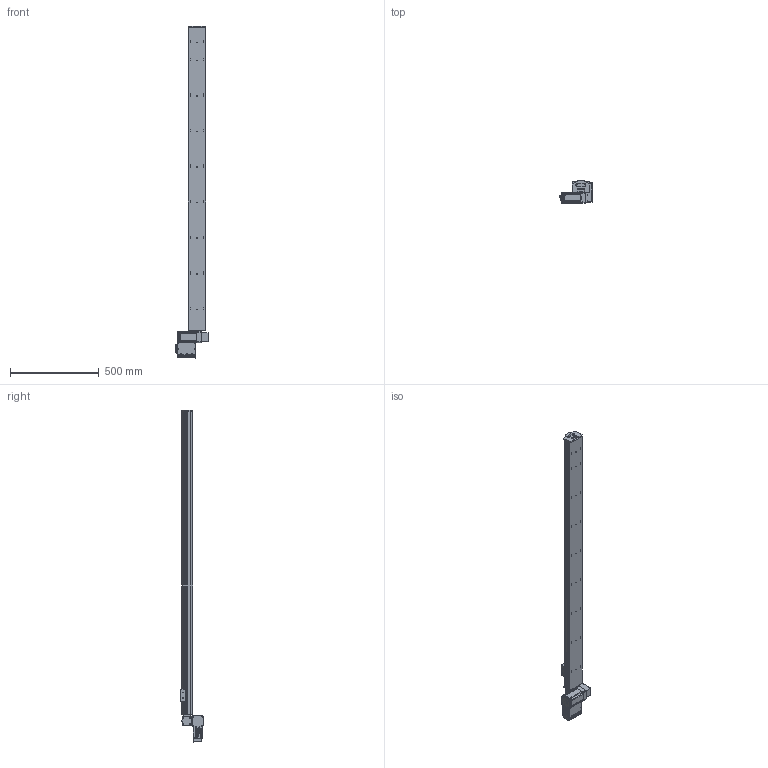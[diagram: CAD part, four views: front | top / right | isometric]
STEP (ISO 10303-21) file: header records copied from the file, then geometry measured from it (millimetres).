
FILE_DESCRIPTION (( 'STEP AP203' ), '1' );
FILE_NAME ('S10 TBN RH S1700.STEP', '2012-06-14T08:46:56', ( 'Conseil Régional Haute-Normandie' ), ( 'Conseil Régional Haute-Normandie' ), 'SwSTEP 2.0', 'SolidWorks 2010', '' );
FILE_SCHEMA (( 'CONFIG_CONTROL_DESIGN' ));
Length unit declared in the file: millimetre
Products named in the file (30): cache t皻e axe_Default; renvoi LH_Default; Cvis M5 L30_Default; vis M5 L12_Default; BU41 Carte Alimentation P05_3; Colonnette_3; Connecteur rond D10 3cts_5; Connecteur rond D12 4cts_5; Sub D 9cts 90_X2_00B_X0__3; Vis TF 3 torkx_1_1; Vis TF 3 torkx; S10 TBN RH S1700; axe 1700; embout; cache t皻e_Default; palette tbn; plaque de bout s10_Default; Plaque racord_Default; Vis M5 L16-2_Default_1; vis M5 L5_Default; Assem1_7; T_X2_00F4_X0_le contre le moteur_5; BU45 Carte d''axe A11_5; Moteur 60BLDC90A_3; Couvercle_3; T_X2_00F4_X0_le fond_3; Radiateur profil_X2_00E9_X0_ 100x25_3; Colonnette ronde_3; T_X2_00F4_X0_le Arri_X2_00E8_X0_re_5; T_X2_00F4_X0_le lat_X2_00E9_X0_rale_5
Assembly tree (69 placements, depth 3):
  S10 TBN RH S1700
    embout
    Cvis M5 L30_Default  x2
    Vis M5 L16-2_Default_1  x4
    vis M5 L5_Default  x4
    Vis TF 3 torkx  x7
    Assem1_7
      Colonnette_3  x2
      BU45 Carte d''axe A11_5
      Vis TF 3 torkx_1_1  x21
      T_X2_00F4_X0_le lat_X2_00E9_X0_rale_5  x2
      Colonnette ronde_3
      Connecteur rond D10 3cts_5  x2
      Connecteur rond D12 4cts_5
      BU41 Carte Alimentation P05_3
      T_X2_00F4_X0_le fond_3
      Couvercle_3
      T_X2_00F4_X0_le contre le moteur_5
      Radiateur profil_X2_00E9_X0_ 100x25_3
      Sub D 9cts 90_X2_00B_X0__3
      Moteur 60BLDC90A_3
      T_X2_00F4_X0_le Arri_X2_00E8_X0_re_5
    cache t皻e axe_Default
    cache t皻e_Default  x2
    vis M5 L12_Default  x4
    axe 1700
    Plaque racord_Default
    palette tbn
    renvoi LH_Default
    plaque de bout s10_Default
Bounding box: 189.8 x 124.75 x 1866.5 mm (x, y, z)
Volume: 9634807.5 mm3; surface area: 1114996.3 mm2
Topology: 68 solids, 68 shells, 2521 faces, 6256 edges, 4046 vertices
Faces by surface type: plane 1213, cylinder 1077, cone 188, bspline 40, torus 3
Entity records: 49476 total; most frequent: CARTESIAN_POINT 8868, DIRECTION 7979, ORIENTED_EDGE 7232, EDGE_CURVE 3616, AXIS2_PLACEMENT_3D 2968, VERTEX_POINT 2362, VECTOR 2043, LINE 2043
